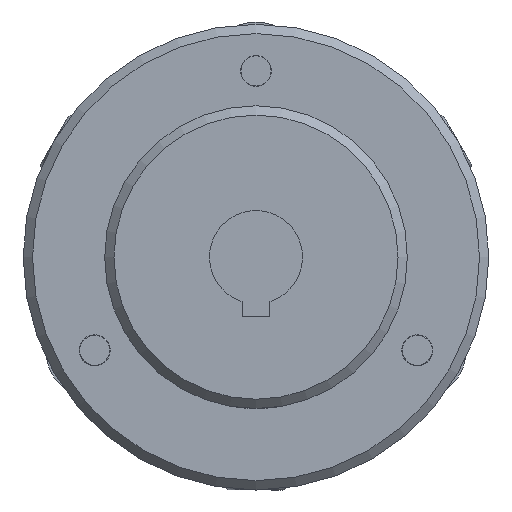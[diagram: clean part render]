
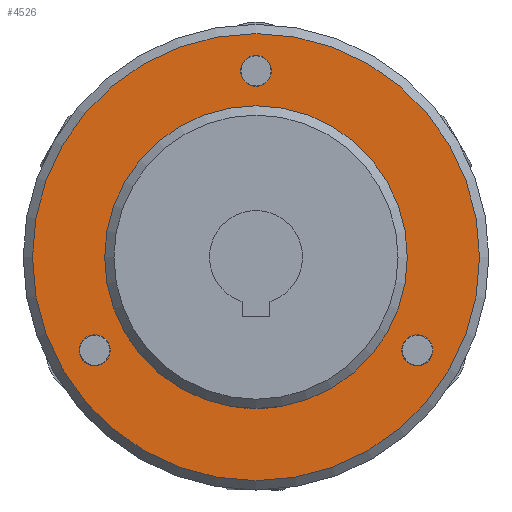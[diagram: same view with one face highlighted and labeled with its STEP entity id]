
A CAD part, left-side view. The second image highlights one B-rep face of the part: STEP entity #4526.
In plain terms, the highlighted planar face has unit normal (-1, 0, 0) as drawn and (0, 1, 0) by its records, which use the part's own axes.
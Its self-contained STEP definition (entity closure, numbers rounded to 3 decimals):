
#917=FACE_BOUND('',#1512,.T.);
#918=FACE_BOUND('',#1513,.T.);
#919=FACE_BOUND('',#1514,.T.);
#920=FACE_BOUND('',#1515,.T.);
#1191=FACE_OUTER_BOUND('',#1511,.T.);
#1511=EDGE_LOOP('',(#4104));
#1512=EDGE_LOOP('',(#4105));
#1513=EDGE_LOOP('',(#4106));
#1514=EDGE_LOOP('',(#4107));
#1515=EDGE_LOOP('',(#4108));
#1825=CIRCLE('',#5284,32.5);
#1826=CIRCLE('',#5287,48.);
#1829=CIRCLE('',#5292,3.324);
#1830=CIRCLE('',#5293,3.324);
#1831=CIRCLE('',#5294,3.324);
#2223=VERTEX_POINT('',#9595);
#2227=VERTEX_POINT('',#9642);
#2230=VERTEX_POINT('',#9652);
#2231=VERTEX_POINT('',#9654);
#2232=VERTEX_POINT('',#9656);
#2856=EDGE_CURVE('',#2223,#2223,#1825,.T.);
#2860=EDGE_CURVE('',#2227,#2227,#1826,.T.);
#2865=EDGE_CURVE('',#2230,#2230,#1829,.T.);
#2866=EDGE_CURVE('',#2231,#2231,#1830,.T.);
#2867=EDGE_CURVE('',#2232,#2232,#1831,.T.);
#4104=ORIENTED_EDGE('',*,*,#2860,.F.);
#4105=ORIENTED_EDGE('',*,*,#2856,.F.);
#4106=ORIENTED_EDGE('',*,*,#2865,.T.);
#4107=ORIENTED_EDGE('',*,*,#2866,.T.);
#4108=ORIENTED_EDGE('',*,*,#2867,.T.);
#4263=PLANE('',#5291);
#4526=ADVANCED_FACE('',(#1191,#917,#918,#919,#920),#4263,.T.);
#5284=AXIS2_PLACEMENT_3D('',#9597,#6609,#6610);
#5287=AXIS2_PLACEMENT_3D('',#9643,#6615,#6616);
#5291=AXIS2_PLACEMENT_3D('',#9651,#6625,#6626);
#5292=AXIS2_PLACEMENT_3D('',#9653,#6627,#6628);
#5293=AXIS2_PLACEMENT_3D('',#9655,#6629,#6630);
#5294=AXIS2_PLACEMENT_3D('',#9657,#6631,#6632);
#6609=DIRECTION('center_axis',(0.,1.,0.));
#6610=DIRECTION('ref_axis',(-1.,0.,0.));
#6615=DIRECTION('center_axis',(0.,-1.,0.));
#6616=DIRECTION('ref_axis',(1.,0.,0.));
#6625=DIRECTION('center_axis',(0.,1.,0.));
#6626=DIRECTION('ref_axis',(0.,0.,1.));
#6627=DIRECTION('center_axis',(0.,-1.,0.));
#6628=DIRECTION('ref_axis',(1.,0.,0.));
#6629=DIRECTION('center_axis',(0.,-1.,0.));
#6630=DIRECTION('ref_axis',(1.,0.,0.));
#6631=DIRECTION('center_axis',(0.,-1.,0.));
#6632=DIRECTION('ref_axis',(1.,0.,0.));
#9595=CARTESIAN_POINT('',(32.5,8.,0.));
#9597=CARTESIAN_POINT('Origin',(0.,8.,0.));
#9642=CARTESIAN_POINT('',(-48.,8.,0.));
#9643=CARTESIAN_POINT('Origin',(0.,8.,0.));
#9651=CARTESIAN_POINT('Origin',(-41.25,8.,0.));
#9652=CARTESIAN_POINT('',(-37.965,8.,-20.));
#9653=CARTESIAN_POINT('Origin',(-34.641,8.,-20.));
#9654=CARTESIAN_POINT('',(-3.324,8.,40.));
#9655=CARTESIAN_POINT('Origin',(0.,8.,40.));
#9656=CARTESIAN_POINT('',(31.318,8.,-20.));
#9657=CARTESIAN_POINT('Origin',(34.641,8.,-20.));
